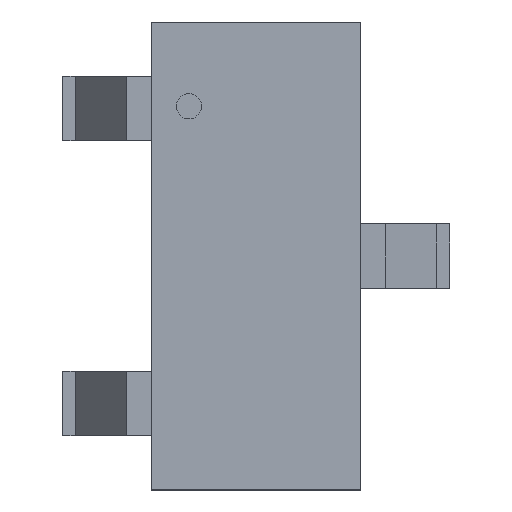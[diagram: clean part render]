
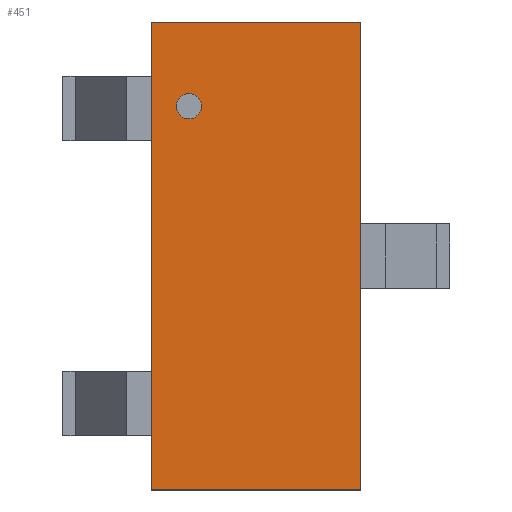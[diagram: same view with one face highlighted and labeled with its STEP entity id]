
A CAD part, top view. The second image highlights one B-rep face of the part: STEP entity #451.
In plain terms, the highlighted planar face has unit normal (0, 0, 1).
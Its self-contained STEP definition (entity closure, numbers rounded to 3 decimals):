
#50 = VERTEX_POINT('',#51);
#51 = CARTESIAN_POINT('',(-0.65,-1.45,1.025));
#58 = PLANE('',#59);
#59 = AXIS2_PLACEMENT_3D('',#60,#61,#62);
#60 = CARTESIAN_POINT('',(-0.65,-1.45,0.05));
#61 = DIRECTION('',(1.,0.,0.));
#62 = DIRECTION('',(0.,0.,1.));
#70 = PLANE('',#71);
#71 = AXIS2_PLACEMENT_3D('',#72,#73,#74);
#72 = CARTESIAN_POINT('',(-0.65,-1.45,0.05));
#73 = DIRECTION('',(0.,1.,0.));
#74 = DIRECTION('',(0.,0.,1.));
#111 = VERTEX_POINT('',#112);
#112 = CARTESIAN_POINT('',(-0.65,1.45,1.025));
#126 = PLANE('',#127);
#127 = AXIS2_PLACEMENT_3D('',#128,#129,#130);
#128 = CARTESIAN_POINT('',(-0.65,1.45,0.05));
#129 = DIRECTION('',(0.,1.,0.));
#130 = DIRECTION('',(0.,0.,1.));
#138 = EDGE_CURVE('',#50,#111,#139,.T.);
#139 = SURFACE_CURVE('',#140,(#144,#151),.PCURVE_S1.);
#140 = LINE('',#141,#142);
#141 = CARTESIAN_POINT('',(-0.65,-1.45,1.025));
#142 = VECTOR('',#143,1.);
#143 = DIRECTION('',(0.,1.,0.));
#144 = PCURVE('',#58,#145);
#145 = DEFINITIONAL_REPRESENTATION('',(#146),#150);
#146 = LINE('',#147,#148);
#147 = CARTESIAN_POINT('',(0.975,0.));
#148 = VECTOR('',#149,1.);
#149 = DIRECTION('',(0.,-1.));
#150 = ( GEOMETRIC_REPRESENTATION_CONTEXT(2) 
PARAMETRIC_REPRESENTATION_CONTEXT() REPRESENTATION_CONTEXT('2D SPACE',''
  ) );
#151 = PCURVE('',#152,#157);
#152 = PLANE('',#153);
#153 = AXIS2_PLACEMENT_3D('',#154,#155,#156);
#154 = CARTESIAN_POINT('',(-0.65,-1.45,1.025));
#155 = DIRECTION('',(0.,0.,1.));
#156 = DIRECTION('',(1.,0.,0.));
#157 = DEFINITIONAL_REPRESENTATION('',(#158),#162);
#158 = LINE('',#159,#160);
#159 = CARTESIAN_POINT('',(0.,0.));
#160 = VECTOR('',#161,1.);
#161 = DIRECTION('',(0.,1.));
#162 = ( GEOMETRIC_REPRESENTATION_CONTEXT(2) 
PARAMETRIC_REPRESENTATION_CONTEXT() REPRESENTATION_CONTEXT('2D SPACE',''
  ) );
#403 = EDGE_CURVE('',#50,#404,#406,.T.);
#404 = VERTEX_POINT('',#405);
#405 = CARTESIAN_POINT('',(0.65,-1.45,1.025));
#406 = SURFACE_CURVE('',#407,(#411,#418),.PCURVE_S1.);
#407 = LINE('',#408,#409);
#408 = CARTESIAN_POINT('',(-0.65,-1.45,1.025));
#409 = VECTOR('',#410,1.);
#410 = DIRECTION('',(1.,0.,0.));
#411 = PCURVE('',#70,#412);
#412 = DEFINITIONAL_REPRESENTATION('',(#413),#417);
#413 = LINE('',#414,#415);
#414 = CARTESIAN_POINT('',(0.975,0.));
#415 = VECTOR('',#416,1.);
#416 = DIRECTION('',(0.,1.));
#417 = ( GEOMETRIC_REPRESENTATION_CONTEXT(2) 
PARAMETRIC_REPRESENTATION_CONTEXT() REPRESENTATION_CONTEXT('2D SPACE',''
  ) );
#418 = PCURVE('',#152,#419);
#419 = DEFINITIONAL_REPRESENTATION('',(#420),#424);
#420 = LINE('',#421,#422);
#421 = CARTESIAN_POINT('',(0.,0.));
#422 = VECTOR('',#423,1.);
#423 = DIRECTION('',(1.,0.));
#424 = ( GEOMETRIC_REPRESENTATION_CONTEXT(2) 
PARAMETRIC_REPRESENTATION_CONTEXT() REPRESENTATION_CONTEXT('2D SPACE',''
  ) );
#440 = PLANE('',#441);
#441 = AXIS2_PLACEMENT_3D('',#442,#443,#444);
#442 = CARTESIAN_POINT('',(0.65,-1.45,0.05));
#443 = DIRECTION('',(1.,0.,0.));
#444 = DIRECTION('',(0.,0.,1.));
#451 = ADVANCED_FACE('',(#452,#500),#152,.T.);
#452 = FACE_BOUND('',#453,.T.);
#453 = EDGE_LOOP('',(#454,#455,#456,#479));
#454 = ORIENTED_EDGE('',*,*,#138,.F.);
#455 = ORIENTED_EDGE('',*,*,#403,.T.);
#456 = ORIENTED_EDGE('',*,*,#457,.T.);
#457 = EDGE_CURVE('',#404,#458,#460,.T.);
#458 = VERTEX_POINT('',#459);
#459 = CARTESIAN_POINT('',(0.65,1.45,1.025));
#460 = SURFACE_CURVE('',#461,(#465,#472),.PCURVE_S1.);
#461 = LINE('',#462,#463);
#462 = CARTESIAN_POINT('',(0.65,-1.45,1.025));
#463 = VECTOR('',#464,1.);
#464 = DIRECTION('',(0.,1.,0.));
#465 = PCURVE('',#152,#466);
#466 = DEFINITIONAL_REPRESENTATION('',(#467),#471);
#467 = LINE('',#468,#469);
#468 = CARTESIAN_POINT('',(1.3,0.));
#469 = VECTOR('',#470,1.);
#470 = DIRECTION('',(0.,1.));
#471 = ( GEOMETRIC_REPRESENTATION_CONTEXT(2) 
PARAMETRIC_REPRESENTATION_CONTEXT() REPRESENTATION_CONTEXT('2D SPACE',''
  ) );
#472 = PCURVE('',#440,#473);
#473 = DEFINITIONAL_REPRESENTATION('',(#474),#478);
#474 = LINE('',#475,#476);
#475 = CARTESIAN_POINT('',(0.975,0.));
#476 = VECTOR('',#477,1.);
#477 = DIRECTION('',(0.,-1.));
#478 = ( GEOMETRIC_REPRESENTATION_CONTEXT(2) 
PARAMETRIC_REPRESENTATION_CONTEXT() REPRESENTATION_CONTEXT('2D SPACE',''
  ) );
#479 = ORIENTED_EDGE('',*,*,#480,.F.);
#480 = EDGE_CURVE('',#111,#458,#481,.T.);
#481 = SURFACE_CURVE('',#482,(#486,#493),.PCURVE_S1.);
#482 = LINE('',#483,#484);
#483 = CARTESIAN_POINT('',(-0.65,1.45,1.025));
#484 = VECTOR('',#485,1.);
#485 = DIRECTION('',(1.,0.,0.));
#486 = PCURVE('',#152,#487);
#487 = DEFINITIONAL_REPRESENTATION('',(#488),#492);
#488 = LINE('',#489,#490);
#489 = CARTESIAN_POINT('',(0.,2.9));
#490 = VECTOR('',#491,1.);
#491 = DIRECTION('',(1.,0.));
#492 = ( GEOMETRIC_REPRESENTATION_CONTEXT(2) 
PARAMETRIC_REPRESENTATION_CONTEXT() REPRESENTATION_CONTEXT('2D SPACE',''
  ) );
#493 = PCURVE('',#126,#494);
#494 = DEFINITIONAL_REPRESENTATION('',(#495),#499);
#495 = LINE('',#496,#497);
#496 = CARTESIAN_POINT('',(0.975,0.));
#497 = VECTOR('',#498,1.);
#498 = DIRECTION('',(0.,1.));
#499 = ( GEOMETRIC_REPRESENTATION_CONTEXT(2) 
PARAMETRIC_REPRESENTATION_CONTEXT() REPRESENTATION_CONTEXT('2D SPACE',''
  ) );
#500 = FACE_BOUND('',#501,.T.);
#501 = EDGE_LOOP('',(#502));
#502 = ORIENTED_EDGE('',*,*,#503,.F.);
#503 = EDGE_CURVE('',#504,#504,#506,.T.);
#504 = VERTEX_POINT('',#505);
#505 = CARTESIAN_POINT('',(-0.338,0.928,1.025));
#506 = SURFACE_CURVE('',#507,(#512,#519),.PCURVE_S1.);
#507 = CIRCLE('',#508,0.078);
#508 = AXIS2_PLACEMENT_3D('',#509,#510,#511);
#509 = CARTESIAN_POINT('',(-0.416,0.928,1.025));
#510 = DIRECTION('',(0.,0.,1.));
#511 = DIRECTION('',(1.,0.,0.));
#512 = PCURVE('',#152,#513);
#513 = DEFINITIONAL_REPRESENTATION('',(#514),#518);
#514 = CIRCLE('',#515,0.078);
#515 = AXIS2_PLACEMENT_2D('',#516,#517);
#516 = CARTESIAN_POINT('',(0.234,2.378));
#517 = DIRECTION('',(1.,0.));
#518 = ( GEOMETRIC_REPRESENTATION_CONTEXT(2) 
PARAMETRIC_REPRESENTATION_CONTEXT() REPRESENTATION_CONTEXT('2D SPACE',''
  ) );
#519 = PCURVE('',#520,#525);
#520 = CYLINDRICAL_SURFACE('',#521,0.078);
#521 = AXIS2_PLACEMENT_3D('',#522,#523,#524);
#522 = CARTESIAN_POINT('',(-0.416,0.928,1.019));
#523 = DIRECTION('',(-0.,-0.,-1.));
#524 = DIRECTION('',(1.,0.,0.));
#525 = DEFINITIONAL_REPRESENTATION('',(#526),#530);
#526 = LINE('',#527,#528);
#527 = CARTESIAN_POINT('',(-0.,-0.006));
#528 = VECTOR('',#529,1.);
#529 = DIRECTION('',(-1.,0.));
#530 = ( GEOMETRIC_REPRESENTATION_CONTEXT(2) 
PARAMETRIC_REPRESENTATION_CONTEXT() REPRESENTATION_CONTEXT('2D SPACE',''
  ) );
